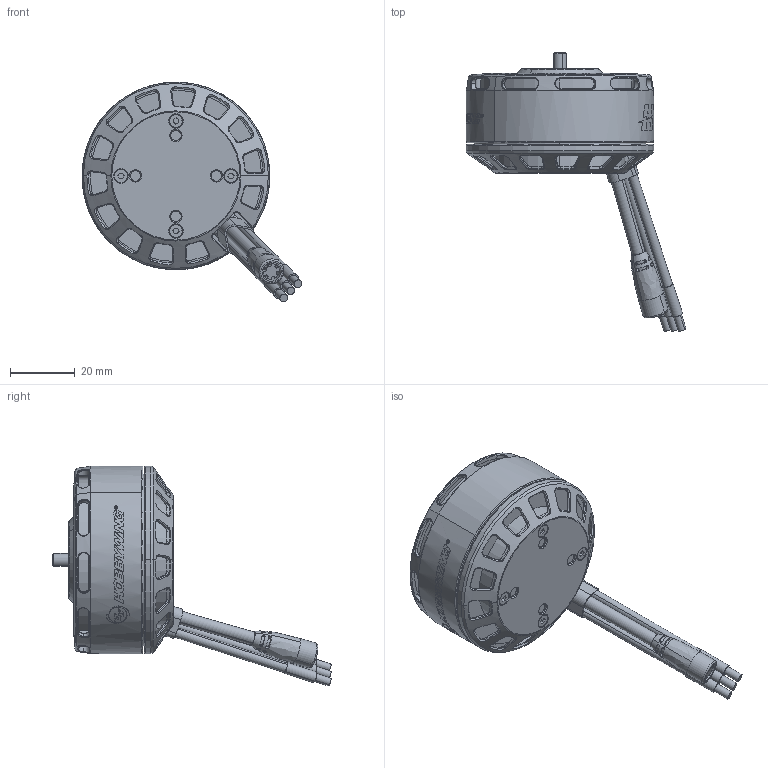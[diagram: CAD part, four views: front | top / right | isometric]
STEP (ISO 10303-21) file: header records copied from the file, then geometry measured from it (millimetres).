
FILE_DESCRIPTION (( 'STEP AP203' ), '1' );
FILE_NAME ('HV-5212-萇儂3D-勤俋23.09.28.STEP', '2023-09-28T06:35:11', ( '' ), ( '' ), 'SwSTEP 2.0', 'SolidWorks 2021', '' );
FILE_SCHEMA (( 'CONFIG_CONTROL_DESIGN' ));
Length unit declared in the file: millimetre
Products named in the file (1): HV-5212-萇儂3D-勤俋23.09.28
Bounding box: 67.94 x 86 x 67.94 mm (x, y, z)
Volume: 71639.2 mm3; surface area: 21123.5 mm2
Topology: 6 solids, 7 shells, 2261 faces, 6107 edges, 3988 vertices
Faces by surface type: plane 1152, bspline 551, cylinder 429, cone 111, torus 18
Entity records: 101205 total; most frequent: CARTESIAN_POINT 49654, ORIENTED_EDGE 12214, DIRECTION 8152, EDGE_CURVE 6107, VERTEX_POINT 3988, VECTOR 2832, LINE 2832, AXIS2_PLACEMENT_3D 2660
